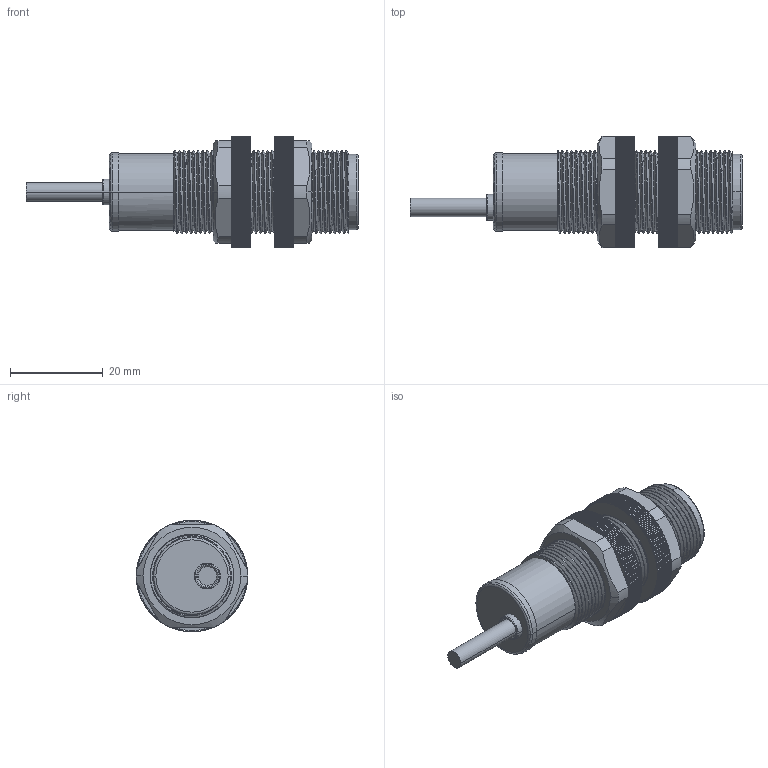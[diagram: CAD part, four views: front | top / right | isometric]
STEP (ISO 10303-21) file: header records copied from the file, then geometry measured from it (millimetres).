
FILE_DESCRIPTION((''),'2;1');
FILE_NAME('EB-T11EB-T31EB-T61EB-T81_ASM','2018-09-14T14:31:20',('Administrator'),(''),'CREO PARAMETRIC BY PTC INC, 2016390','CREO PARAMETRIC BY PTC INC, 2016390','');
FILE_SCHEMA(('AUTOMOTIVE_DESIGN { 1 0 10303 214 1 1 1 1 }'));
Products named in the file (7): MAIN_BODY_T; 16020_40; EB-T_GLASS; EB-T_DENGTOU; LOMU; EB_PCB_T; EB-T11EB-T31EB-T61EB-T81_ASM
Assembly tree (7 placements, depth 2):
  EB-T11EB-T31EB-T61EB-T81_ASM
    MAIN_BODY_T
    16020_40
    EB-T_GLASS
    EB-T_DENGTOU
    LOMU  x2
    EB_PCB_T
Bounding box: 71.6 x 24 x 24 mm (x, y, z)
Volume: 8826.1 mm3; surface area: 15332 mm2
Topology: 8 solids, 8 shells, 1995 faces, 5768 edges, 3802 vertices
Faces by surface type: plane 1039, cylinder 871, bspline 55, cone 16, torus 12, sphere 2
Entity records: 54573 total; most frequent: CARTESIAN_POINT 24246, ORIENTED_EDGE 6332, DIRECTION 6020, EDGE_CURVE 3166, VERTEX_POINT 2084, AXIS2_PLACEMENT_3D 2047, VECTOR 1926, LINE 1926
